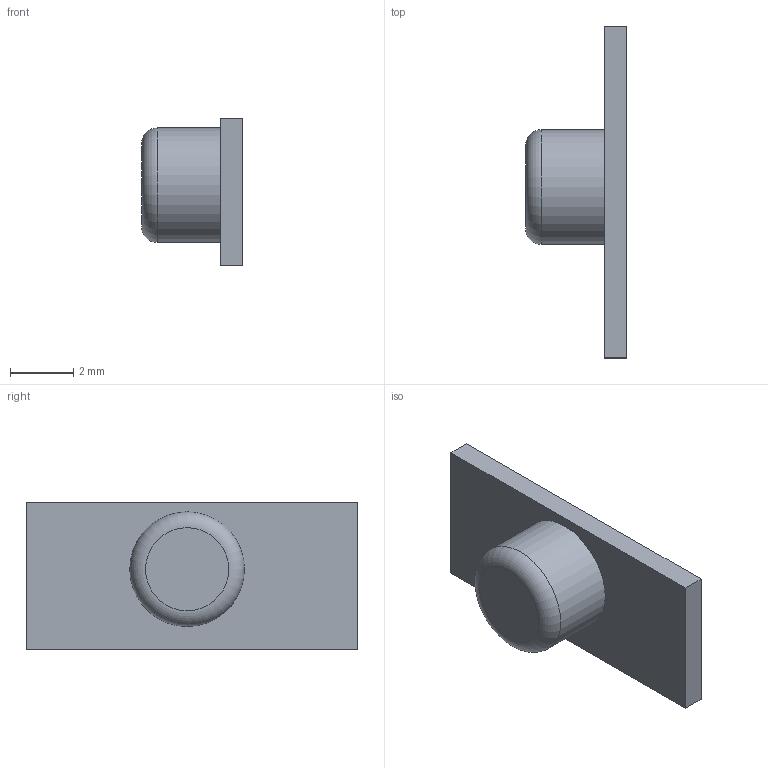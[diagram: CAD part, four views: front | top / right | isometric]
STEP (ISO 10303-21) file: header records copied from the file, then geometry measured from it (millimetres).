
FILE_DESCRIPTION(/* description */ (''),/* implementation_level */ '2;1');
FILE_NAME(/* name */ 'Switch.step',/* time_stamp */ '2026-06-06T10:55:33+05:30',/* author */ (''),/* organization */ (''),/* preprocessor_version */ 'ST-DEVELOPER v20.1',/* originating_system */ 'Autodesk Translation Framework v15.8.0.0',/* authorisation */ '');
FILE_SCHEMA (('AUTOMOTIVE_DESIGN { 1 0 10303 214 3 1 1 }'));
Length unit declared in the file: millimetre
Products named in the file (1): Switch
Bounding box: 3.2 x 10.53 x 4.67 mm (x, y, z)
Volume: 54.1 mm3; surface area: 160.1 mm2
Topology: 1 solids, 1 shells, 14 faces, 30 edges, 20 vertices
Faces by surface type: plane 12, torus 1, cylinder 1
Full cylindrical faces by diameter (mm): 3.638 x1
Entity records: 419 total; most frequent: DIRECTION 65, CARTESIAN_POINT 65, ORIENTED_EDGE 60, EDGE_CURVE 30, LINE 25, VECTOR 25, VERTEX_POINT 20, AXIS2_PLACEMENT_3D 20
